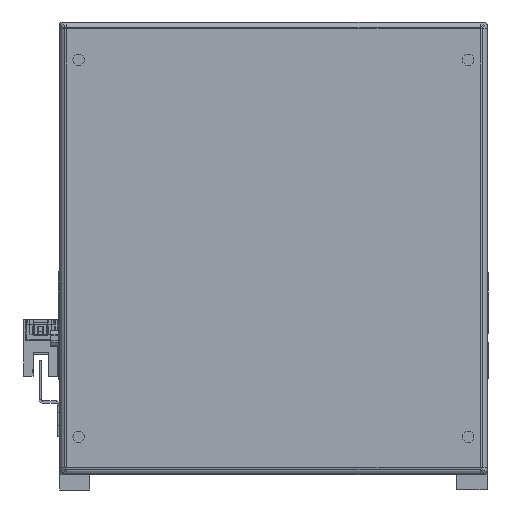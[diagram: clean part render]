
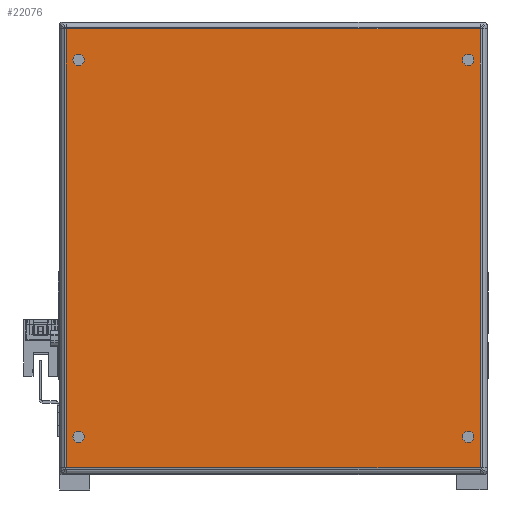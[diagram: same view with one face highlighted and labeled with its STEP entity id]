
A CAD part, front view. The second image highlights one B-rep face of the part: STEP entity #22076.
In plain terms, the highlighted planar face has unit normal (0, -1, 0) as drawn and (0, 0, -1) by its records, which use the part's own axes.
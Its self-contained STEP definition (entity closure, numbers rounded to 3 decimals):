
#49 = EDGE_CURVE ( 'NONE', #4136, #16486, #17817, .T. ) ;
#483 = FACE_OUTER_BOUND ( 'NONE', #16281, .T. ) ;
#797 = ORIENTED_EDGE ( 'NONE', *, *, #3569, .F. ) ;
#1004 = EDGE_LOOP ( 'NONE', ( #28596 ) ) ;
#1448 = CARTESIAN_POINT ( 'NONE',  ( 146.597, 2.271, -47. ) ) ;
#2035 = CARTESIAN_POINT ( 'NONE',  ( 172.51, -29.032, -47. ) ) ;
#2097 = CARTESIAN_POINT ( 'NONE',  ( 172.54, -29.032, -47. ) ) ;
#2706 = CIRCLE ( 'NONE', #25734, 2.25 ) ;
#3319 = FACE_BOUND ( 'NONE', #4259, .T. ) ;
#3569 = EDGE_CURVE ( 'NONE', #23301, #23301, #6064, .T. ) ;
#3626 = EDGE_CURVE ( 'NONE', #16486, #12097, #12482, .T. ) ;
#4136 = VERTEX_POINT ( 'NONE', #13712 ) ;
#4185 = DIRECTION ( 'NONE',  ( -1., 0., 0. ) ) ;
#4259 = EDGE_LOOP ( 'NONE', ( #15686 ) ) ;
#4287 = VECTOR ( 'NONE', #9879, 1000. ) ;
#4324 = DIRECTION ( 'NONE',  ( 0., 0., -1. ) ) ;
#4391 = AXIS2_PLACEMENT_3D ( 'NONE', #21646, #4324, #26265 ) ;
#4624 = CARTESIAN_POINT ( 'NONE',  ( 160.247, 129.731, -47. ) ) ;
#4970 = LINE ( 'NONE', #24083, #15238 ) ;
#5293 = AXIS2_PLACEMENT_3D ( 'NONE', #17273, #13990, #4185 ) ;
#6064 = CIRCLE ( 'NONE', #17008, 2.25 ) ;
#7288 = ORIENTED_EDGE ( 'NONE', *, *, #49, .T. ) ;
#7793 = DIRECTION ( 'NONE',  ( 1., 0., 0. ) ) ;
#8029 = EDGE_CURVE ( 'NONE', #10680, #10680, #14392, .T. ) ;
#8283 = CARTESIAN_POINT ( 'NONE',  ( -1.046, 134.494, -47. ) ) ;
#8532 = VECTOR ( 'NONE', #18460, 1000. ) ;
#8923 = DIRECTION ( 'NONE',  ( -1., 0., 0. ) ) ;
#9879 = DIRECTION ( 'NONE',  ( 0., 1., 0. ) ) ;
#10111 = EDGE_LOOP ( 'NONE', ( #25348 ) ) ;
#10212 = VERTEX_POINT ( 'NONE', #14435 ) ;
#10663 = CARTESIAN_POINT ( 'NONE',  ( 157.997, -24.269, -47. ) ) ;
#10680 = VERTEX_POINT ( 'NONE', #27947 ) ;
#10803 = CARTESIAN_POINT ( 'NONE',  ( -1.016, -29.062, -47. ) ) ;
#10899 = AXIS2_PLACEMENT_3D ( 'NONE', #1448, #17800, #8923 ) ;
#11062 = DIRECTION ( 'NONE',  ( 0., 0., -1. ) ) ;
#11234 = EDGE_CURVE ( 'NONE', #10212, #10212, #2706, .T. ) ;
#11475 = DIRECTION ( 'NONE',  ( 0., -1., 0. ) ) ;
#11719 = PLANE ( 'NONE',  #10899 ) ;
#12058 = ORIENTED_EDGE ( 'NONE', *, *, #3626, .T. ) ;
#12097 = VERTEX_POINT ( 'NONE', #15660 ) ;
#12257 = EDGE_CURVE ( 'NONE', #12097, #20279, #4970, .T. ) ;
#12482 = LINE ( 'NONE', #8283, #14831 ) ;
#13114 = FACE_BOUND ( 'NONE', #27614, .T. ) ;
#13446 = ORIENTED_EDGE ( 'NONE', *, *, #19281, .T. ) ;
#13712 = CARTESIAN_POINT ( 'NONE',  ( -1.016, -29.032, -47. ) ) ;
#13990 = DIRECTION ( 'NONE',  ( 0., 0., -1. ) ) ;
#14392 = CIRCLE ( 'NONE', #5293, 2.25 ) ;
#14435 = CARTESIAN_POINT ( 'NONE',  ( 157.997, 129.731, -47. ) ) ;
#14831 = VECTOR ( 'NONE', #7793, 1000. ) ;
#15027 = FACE_BOUND ( 'NONE', #1004, .T. ) ;
#15238 = VECTOR ( 'NONE', #11475, 1000. ) ;
#15660 = CARTESIAN_POINT ( 'NONE',  ( 172.51, 134.494, -47. ) ) ;
#15686 = ORIENTED_EDGE ( 'NONE', *, *, #11234, .F. ) ;
#16186 = VERTEX_POINT ( 'NONE', #24535 ) ;
#16239 = CARTESIAN_POINT ( 'NONE',  ( 160.247, -24.269, -47. ) ) ;
#16281 = EDGE_LOOP ( 'NONE', ( #13446, #7288, #12058, #22820 ) ) ;
#16486 = VERTEX_POINT ( 'NONE', #16745 ) ;
#16745 = CARTESIAN_POINT ( 'NONE',  ( -1.016, 134.494, -47. ) ) ;
#17008 = AXIS2_PLACEMENT_3D ( 'NONE', #16239, #11062, #28818 ) ;
#17273 = CARTESIAN_POINT ( 'NONE',  ( 11.247, -24.269, -47. ) ) ;
#17800 = DIRECTION ( 'NONE',  ( 0., 0., -1. ) ) ;
#17817 = LINE ( 'NONE', #10803, #4287 ) ;
#18460 = DIRECTION ( 'NONE',  ( -1., 0., 0. ) ) ;
#19281 = EDGE_CURVE ( 'NONE', #20279, #4136, #21777, .T. ) ;
#19961 = CIRCLE ( 'NONE', #4391, 2.25 ) ;
#20279 = VERTEX_POINT ( 'NONE', #2035 ) ;
#21023 = DIRECTION ( 'NONE',  ( 0., 0., -1. ) ) ;
#21646 = CARTESIAN_POINT ( 'NONE',  ( 11.247, 129.731, -47. ) ) ;
#21777 = LINE ( 'NONE', #2097, #8532 ) ;
#22042 = FACE_BOUND ( 'NONE', #10111, .T. ) ;
#22076 = ADVANCED_FACE ( 'NONE', ( #15027, #22042, #3319, #13114, #483 ), #11719, .T. ) ;
#22820 = ORIENTED_EDGE ( 'NONE', *, *, #12257, .T. ) ;
#23301 = VERTEX_POINT ( 'NONE', #10663 ) ;
#24083 = CARTESIAN_POINT ( 'NONE',  ( 172.51, 134.524, -47. ) ) ;
#24535 = CARTESIAN_POINT ( 'NONE',  ( 8.997, 129.731, -47. ) ) ;
#25348 = ORIENTED_EDGE ( 'NONE', *, *, #27146, .F. ) ;
#25734 = AXIS2_PLACEMENT_3D ( 'NONE', #4624, #21023, #28417 ) ;
#26265 = DIRECTION ( 'NONE',  ( -1., 0., 0. ) ) ;
#27146 = EDGE_CURVE ( 'NONE', #16186, #16186, #19961, .T. ) ;
#27614 = EDGE_LOOP ( 'NONE', ( #797 ) ) ;
#27947 = CARTESIAN_POINT ( 'NONE',  ( 8.997, -24.269, -47. ) ) ;
#28417 = DIRECTION ( 'NONE',  ( -1., 0., 0. ) ) ;
#28596 = ORIENTED_EDGE ( 'NONE', *, *, #8029, .F. ) ;
#28818 = DIRECTION ( 'NONE',  ( -1., 0., 0. ) ) ;
